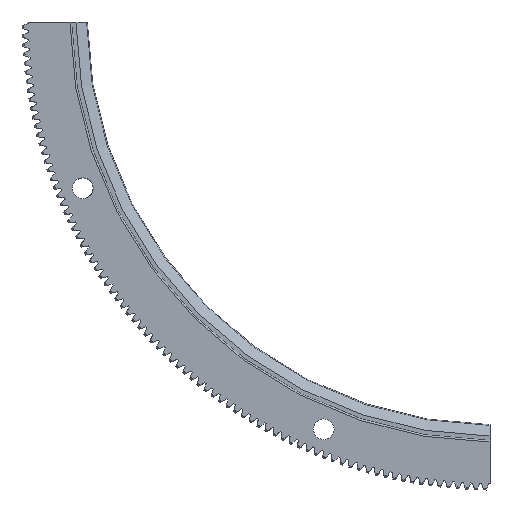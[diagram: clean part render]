
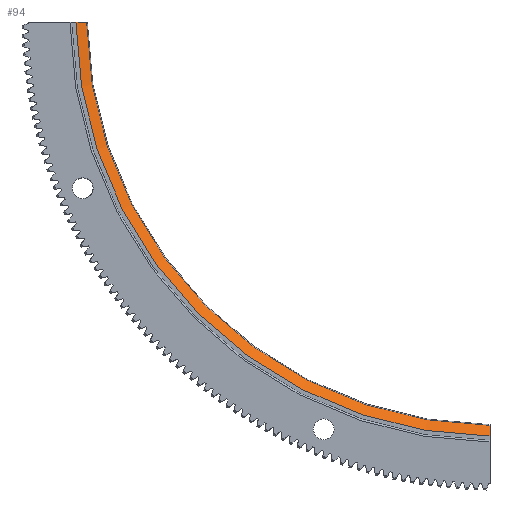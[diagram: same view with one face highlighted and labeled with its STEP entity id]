
A CAD part, front view. The second image highlights one B-rep face of the part: STEP entity #94.
In plain terms, the highlighted conical face has half-angle 55 degrees and reference radius 98.521 mm.
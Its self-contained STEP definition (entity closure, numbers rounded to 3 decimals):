
#94=ADVANCED_FACE('',(#596),#597,.F.);
#596=FACE_OUTER_BOUND('',#1606,.T.);
#597=CONICAL_SURFACE('',#1607,98.521,0.96);
#1606=EDGE_LOOP('',(#2628,#2629,#2630,#2631));
#1607=AXIS2_PLACEMENT_3D('',#2632,#2633,#2634);
#2628=ORIENTED_EDGE('',*,*,#7093,.T.);
#2629=ORIENTED_EDGE('',*,*,#7083,.T.);
#2630=ORIENTED_EDGE('',*,*,#7094,.F.);
#2631=ORIENTED_EDGE('',*,*,#7095,.T.);
#2632=CARTESIAN_POINT('',(0.0,7.576,0.0));
#2633=DIRECTION('',(0.0,-1.0,-0.0));
#2634=DIRECTION('',(0.0,0.0,-1.0));
#7083=EDGE_CURVE('',#8569,#8566,#8570,.T.);
#7093=EDGE_CURVE('',#8588,#8569,#8589,.T.);
#7094=EDGE_CURVE('',#8590,#8566,#8591,.T.);
#7095=EDGE_CURVE('',#8590,#8588,#8592,.T.);
#8566=VERTEX_POINT('',#11042);
#8569=VERTEX_POINT('',#11052);
#8570=B_SPLINE_CURVE_WITH_KNOTS('',3,(#11053,#11054,#11055,#11056),.UNSPECIFIED.,.F.,.F.,(4,4),(0.122,0.125),.UNSPECIFIED.);
#8588=VERTEX_POINT('',#11087);
#8589=CIRCLE('',#11088,101.057);
#8590=VERTEX_POINT('',#11089);
#8591=CIRCLE('',#11090,98.521);
#8592=B_SPLINE_CURVE_WITH_KNOTS('',3,(#11091,#11092,#11093,#11094),.UNSPECIFIED.,.F.,.F.,(4,4),(0.389,0.392),.UNSPECIFIED.);
#11042=CARTESIAN_POINT('',(-1.0,7.576,-98.516));
#11052=CARTESIAN_POINT('',(-1.0,5.8,-101.052));
#11053=CARTESIAN_POINT('',(-1.0,5.8,-101.052));
#11054=CARTESIAN_POINT('',(-1.0,6.392,-100.207));
#11055=CARTESIAN_POINT('',(-1.0,6.984,-99.361));
#11056=CARTESIAN_POINT('',(-1.0,7.576,-98.516));
#11087=CARTESIAN_POINT('',(-101.052,5.8,-1.0));
#11088=AXIS2_PLACEMENT_3D('',#15104,#15105,#15106);
#11089=CARTESIAN_POINT('',(-98.516,7.576,-1.0));
#11090=AXIS2_PLACEMENT_3D('',#15107,#15108,#15109);
#11091=CARTESIAN_POINT('',(-98.516,7.576,-1.0));
#11092=CARTESIAN_POINT('',(-99.361,6.984,-1.0));
#11093=CARTESIAN_POINT('',(-100.207,6.392,-1.0));
#11094=CARTESIAN_POINT('',(-101.052,5.8,-1.0));
#15104=CARTESIAN_POINT('',(0.0,5.8,0.0));
#15105=DIRECTION('',(0.0,-1.0,0.0));
#15106=DIRECTION('',(0.0,0.0,-1.0));
#15107=CARTESIAN_POINT('',(0.0,7.576,0.0));
#15108=DIRECTION('',(0.0,-1.0,0.0));
#15109=DIRECTION('',(0.0,0.0,-1.0));
